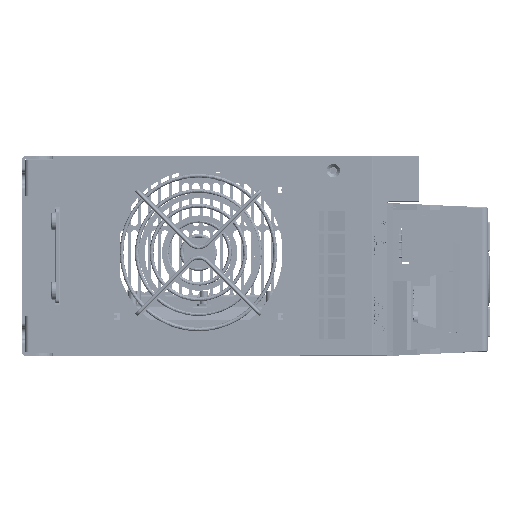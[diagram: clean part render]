
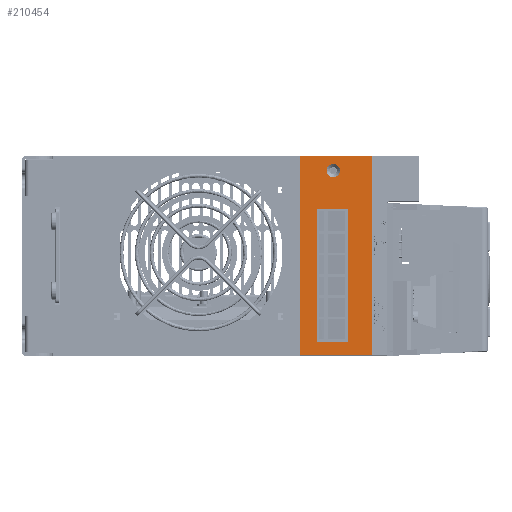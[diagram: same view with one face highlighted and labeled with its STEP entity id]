
A CAD part, front view. The second image highlights one B-rep face of the part: STEP entity #210454.
In plain terms, the highlighted planar face has unit normal (0, -1, 0) as drawn and (-1, 0, 0) by its records, which use the part's own axes.
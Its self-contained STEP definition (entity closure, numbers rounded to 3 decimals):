
#3867 = EDGE_CURVE ( 'NONE', #206904, #18020, #197546, .T. ) ;
#13983 = ORIENTED_EDGE ( 'NONE', *, *, #3867, .F. ) ;
#14543 = VECTOR ( 'NONE', #264779, 1000. ) ;
#18020 = VERTEX_POINT ( 'NONE', #262569 ) ;
#19087 = CARTESIAN_POINT ( 'NONE',  ( -136.5, 47., 41.629 ) ) ;
#20095 = CARTESIAN_POINT ( 'NONE',  ( -136.5, -40.5, 25.706 ) ) ;
#21299 = CARTESIAN_POINT ( 'NONE',  ( -136.5, -40.5, 22.556 ) ) ;
#21779 = CARTESIAN_POINT ( 'NONE',  ( -136.5, 40.816, 33.529 ) ) ;
#22987 = AXIS2_PLACEMENT_3D ( 'NONE', #172543, #195447, #64798 ) ;
#28327 = VECTOR ( 'NONE', #183814, 1000. ) ;
#33256 = LINE ( 'NONE', #186281, #91118 ) ;
#37033 = CIRCLE ( 'NONE', #161040, 3.15 ) ;
#41995 = DIRECTION ( 'NONE',  ( 0., 0., 1. ) ) ;
#42275 = CARTESIAN_POINT ( 'NONE',  ( -136.5, -22.544, 18.929 ) ) ;
#50896 = ORIENTED_EDGE ( 'NONE', *, *, #233432, .F. ) ;
#51607 = ORIENTED_EDGE ( 'NONE', *, *, #238306, .T. ) ;
#51821 = EDGE_LOOP ( 'NONE', ( #219521, #91173, #51607, #219525 ) ) ;
#52208 = VECTOR ( 'NONE', #64255, 1000. ) ;
#61602 = EDGE_CURVE ( 'NONE', #220361, #253902, #188544, .T. ) ;
#61995 = EDGE_LOOP ( 'NONE', ( #110617, #13983 ) ) ;
#63168 = CARTESIAN_POINT ( 'NONE',  ( -136.5, -47.5, 173.5 ) ) ;
#64255 = DIRECTION ( 'NONE',  ( 0., 0., 1. ) ) ;
#64798 = DIRECTION ( 'NONE',  ( 0., 1., 0. ) ) ;
#66449 = VECTOR ( 'NONE', #267884, 1000. ) ;
#71749 = CARTESIAN_POINT ( 'NONE',  ( -136.5, 40.816, 18.929 ) ) ;
#74270 = DIRECTION ( 'NONE',  ( 0., 0., -1. ) ) ;
#74426 = VECTOR ( 'NONE', #85000, 1000. ) ;
#85000 = DIRECTION ( 'NONE',  ( 0., 0., -1. ) ) ;
#86195 = LINE ( 'NONE', #226816, #28327 ) ;
#87450 = VERTEX_POINT ( 'NONE', #274531 ) ;
#91118 = VECTOR ( 'NONE', #120375, 1000. ) ;
#91173 = ORIENTED_EDGE ( 'NONE', *, *, #176763, .T. ) ;
#95975 = FACE_BOUND ( 'NONE', #61995, .T. ) ;
#104482 = VERTEX_POINT ( 'NONE', #215666 ) ;
#110617 = ORIENTED_EDGE ( 'NONE', *, *, #162736, .F. ) ;
#112014 = CARTESIAN_POINT ( 'NONE',  ( -136.5, 45.5, 41.629 ) ) ;
#112369 = CARTESIAN_POINT ( 'NONE',  ( -136.5, -47.5, 41.629 ) ) ;
#120375 = DIRECTION ( 'NONE',  ( 0., 1., 0. ) ) ;
#122697 = EDGE_CURVE ( 'NONE', #141652, #87450, #199148, .T. ) ;
#124353 = LINE ( 'NONE', #245917, #66449 ) ;
#124753 = DIRECTION ( 'NONE',  ( -1., 0., 0. ) ) ;
#129539 = PLANE ( 'NONE',  #22987 ) ;
#131035 = EDGE_LOOP ( 'NONE', ( #50896, #219891, #152415, #270486 ) ) ;
#133215 = LINE ( 'NONE', #182981, #242573 ) ;
#137479 = DIRECTION ( 'NONE',  ( 0., 0., -1. ) ) ;
#141652 = VERTEX_POINT ( 'NONE', #21779 ) ;
#145247 = EDGE_CURVE ( 'NONE', #87450, #204460, #86195, .T. ) ;
#151556 = CARTESIAN_POINT ( 'NONE',  ( -136.5, -22.544, 18.929 ) ) ;
#152415 = ORIENTED_EDGE ( 'NONE', *, *, #122697, .F. ) ;
#153979 = FACE_BOUND ( 'NONE', #131035, .T. ) ;
#156458 = CARTESIAN_POINT ( 'NONE',  ( -136.5, 47., 7.207 ) ) ;
#161040 = AXIS2_PLACEMENT_3D ( 'NONE', #20095, #172652, #41995 ) ;
#161330 = LINE ( 'NONE', #42275, #52208 ) ;
#162736 = EDGE_CURVE ( 'NONE', #18020, #206904, #37033, .T. ) ;
#172543 = CARTESIAN_POINT ( 'NONE',  ( -136.5, 47.5, 173.5 ) ) ;
#172652 = DIRECTION ( 'NONE',  ( -1., 0., 0. ) ) ;
#175110 = AXIS2_PLACEMENT_3D ( 'NONE', #255623, #124753, #277552 ) ;
#176763 = EDGE_CURVE ( 'NONE', #220361, #222507, #133215, .T. ) ;
#182981 = CARTESIAN_POINT ( 'NONE',  ( -136.5, 47., 173.5 ) ) ;
#183814 = DIRECTION ( 'NONE',  ( 0., -1., 0. ) ) ;
#185456 = VECTOR ( 'NONE', #137479, 1000. ) ;
#186281 = CARTESIAN_POINT ( 'NONE',  ( -136.5, 40.816, 33.529 ) ) ;
#188544 = LINE ( 'NONE', #112014, #14543 ) ;
#190431 = LINE ( 'NONE', #63168, #74426 ) ;
#195447 = DIRECTION ( 'NONE',  ( 1., 0., 0. ) ) ;
#197546 = CIRCLE ( 'NONE', #175110, 3.15 ) ;
#199148 = LINE ( 'NONE', #71749, #185456 ) ;
#204460 = VERTEX_POINT ( 'NONE', #151556 ) ;
#204731 = CARTESIAN_POINT ( 'NONE',  ( -136.5, -22.544, 33.529 ) ) ;
#206904 = VERTEX_POINT ( 'NONE', #21299 ) ;
#210454 = ADVANCED_FACE ( 'NONE', ( #95975, #153979, #212103 ), #129539, .F. ) ;
#212103 = FACE_OUTER_BOUND ( 'NONE', #51821, .T. ) ;
#215666 = CARTESIAN_POINT ( 'NONE',  ( -136.5, -47.5, 7.207 ) ) ;
#219521 = ORIENTED_EDGE ( 'NONE', *, *, #61602, .F. ) ;
#219525 = ORIENTED_EDGE ( 'NONE', *, *, #250080, .F. ) ;
#219891 = ORIENTED_EDGE ( 'NONE', *, *, #145247, .F. ) ;
#220361 = VERTEX_POINT ( 'NONE', #19087 ) ;
#222507 = VERTEX_POINT ( 'NONE', #156458 ) ;
#226816 = CARTESIAN_POINT ( 'NONE',  ( -136.5, 40.816, 18.929 ) ) ;
#233432 = EDGE_CURVE ( 'NONE', #204460, #274621, #161330, .T. ) ;
#238306 = EDGE_CURVE ( 'NONE', #222507, #104482, #124353, .T. ) ;
#242573 = VECTOR ( 'NONE', #74270, 1000. ) ;
#245917 = CARTESIAN_POINT ( 'NONE',  ( -136.5, -47.5, 7.207 ) ) ;
#250080 = EDGE_CURVE ( 'NONE', #253902, #104482, #190431, .T. ) ;
#253902 = VERTEX_POINT ( 'NONE', #112369 ) ;
#255623 = CARTESIAN_POINT ( 'NONE',  ( -136.5, -40.5, 25.706 ) ) ;
#262569 = CARTESIAN_POINT ( 'NONE',  ( -136.5, -40.5, 28.856 ) ) ;
#264779 = DIRECTION ( 'NONE',  ( 0., -1., 0. ) ) ;
#267884 = DIRECTION ( 'NONE',  ( 0., -1., 0. ) ) ;
#270486 = ORIENTED_EDGE ( 'NONE', *, *, #272606, .F. ) ;
#272606 = EDGE_CURVE ( 'NONE', #274621, #141652, #33256, .T. ) ;
#274531 = CARTESIAN_POINT ( 'NONE',  ( -136.5, 40.816, 18.929 ) ) ;
#274621 = VERTEX_POINT ( 'NONE', #204731 ) ;
#277552 = DIRECTION ( 'NONE',  ( 0., 0., 1. ) ) ;
